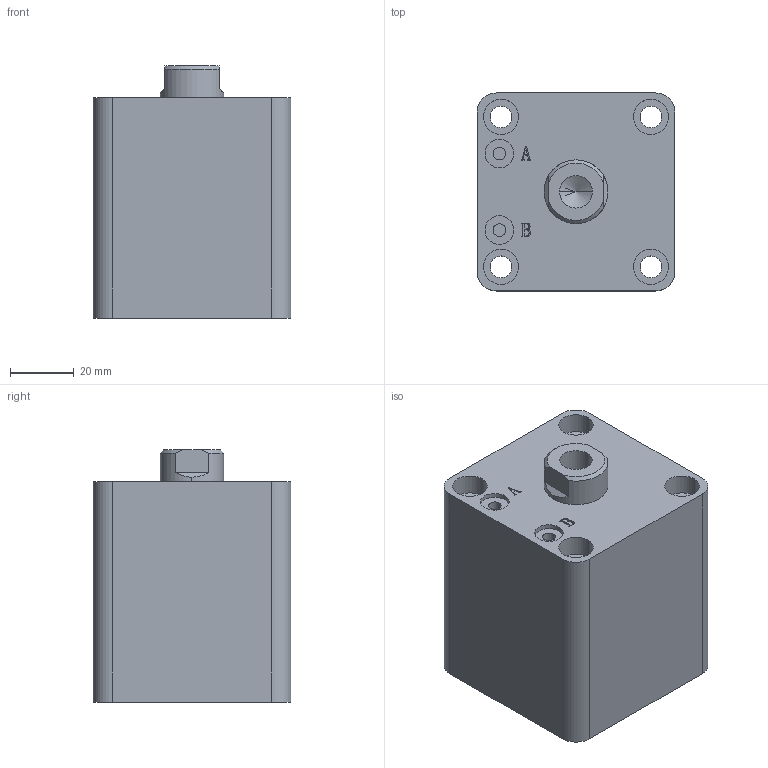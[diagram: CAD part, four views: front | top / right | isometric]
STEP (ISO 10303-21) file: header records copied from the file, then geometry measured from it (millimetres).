
FILE_DESCRIPTION (( 'STEP AP203' ), '1' );
FILE_NAME ('HTB-SDMA32-15N.STEP', '2019-10-07T11:38:24', ( '微软用户' ), ( '微软中国' ), 'SwSTEP 2.0', 'SolidWorks 2012', '' );
FILE_SCHEMA (( 'CONFIG_CONTROL_DESIGN' ));
Length unit declared in the file: millimetre
Products named in the file (3): HTB-SDMA32-15N; HTB-SDMA32-15N活塞杆; HTB-SDMA32-15掛极
Assembly tree (2 placements, depth 2):
  HTB-SDMA32-15N
    HTB-SDMA32-15掛极
    HTB-SDMA32-15N活塞杆
Bounding box: 62 x 62 x 79 mm (x, y, z)
Volume: 243685.6 mm3; surface area: 43739.3 mm2
Topology: 2 solids, 2 shells, 137 faces, 331 edges, 217 vertices
Faces by surface type: plane 65, cylinder 46, bspline 16, torus 6, cone 4
Entity records: 5070 total; most frequent: CARTESIAN_POINT 1576, ORIENTED_EDGE 658, DIRECTION 647, EDGE_CURVE 329, AXIS2_PLACEMENT_3D 232, VERTEX_POINT 217, VECTOR 183, LINE 183
